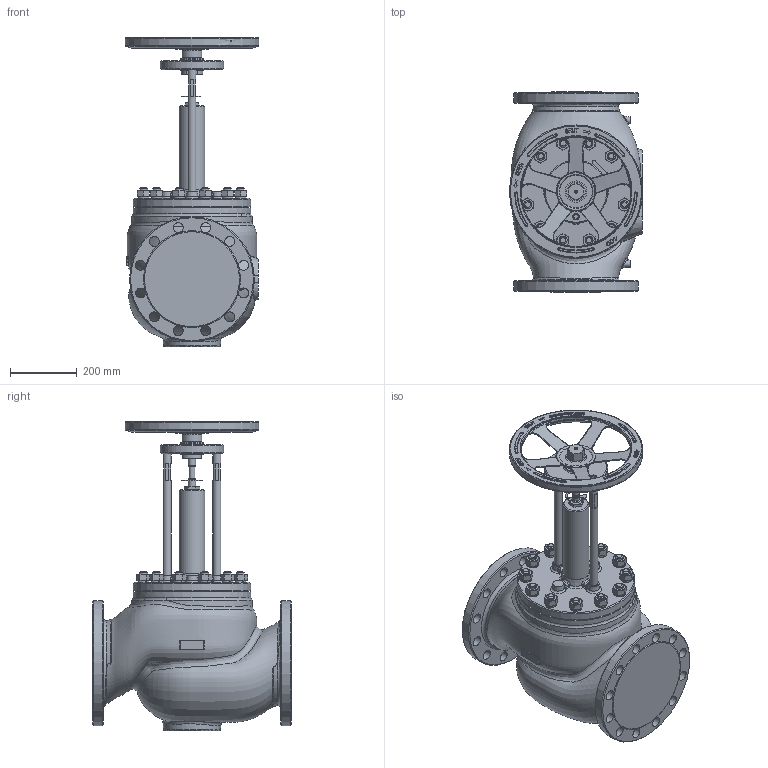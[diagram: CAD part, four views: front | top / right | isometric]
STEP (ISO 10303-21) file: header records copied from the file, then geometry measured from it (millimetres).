
FILE_DESCRIPTION(/* description */ (''),/* implementation_level */ '2;1');
FILE_NAME(/* name */ 'ZV226E_DN200_PN40.stp',/* time_stamp */ '2014-10-01T05:41:27+02:00',/* author */ (''),/* organization */ (''),/* preprocessor_version */ 'ST-DEVELOPER v15',/* originating_system */ 'SIEMENS PLM Software NX 8.5',/* authorisation */ '');
FILE_SCHEMA (('AP203_CONFIGURATION_CONTROLLED_3D_DESIGN_OF_MECHANICAL_PARTS_AND_ASSEMBLIES_MIM_LF { 1 0 10303 403 2 1 2}'));
Products named in the file (1): adam0D0CD2F3qxhx
Bounding box: 400 x 600 x 929.5 mm (x, y, z)
Volume: 61039389.8 mm3; surface area: 1951518.5 mm2
Topology: 1 solids, 13 shells, 1198 faces, 3071 edges, 1906 vertices
Faces by surface type: plane 403, cone 280, cylinder 198, bspline 157, torus 137, extrusion 23
Full cylindrical faces by diameter (mm): 4 x1, 7 x1, 18 x3, 19 x1, 20 x2, 21.564 x12, 22 x3, 24 x38, 30 x24, 33.7 x1, 50 x1, 55 x1, 55.2 x1, 60 x1, 62 x2, 70 x2, 78 x1, 190 x1, 253 x1, 330 x1, 335 x1, 354 x2, 375 x2, 395 x1, 400 x1
Entity records: 59228 total; most frequent: CARTESIAN_POINT 33814, ORIENTED_EDGE 5346, DIRECTION 4735, EDGE_CURVE 2673, AXIS2_PLACEMENT_3D 2082, VERTEX_POINT 1756, EDGE_LOOP 1585, ADVANCED_FACE 1198
